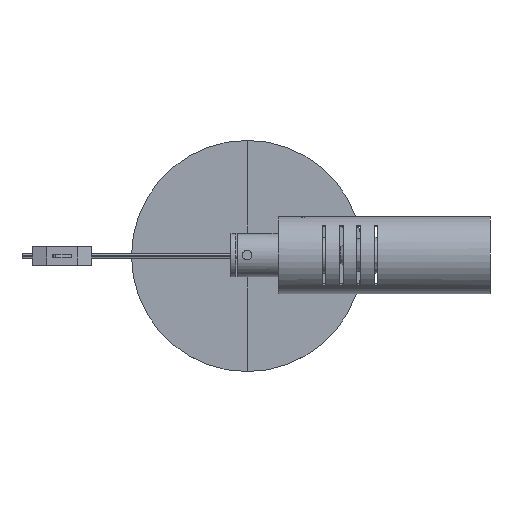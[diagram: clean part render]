
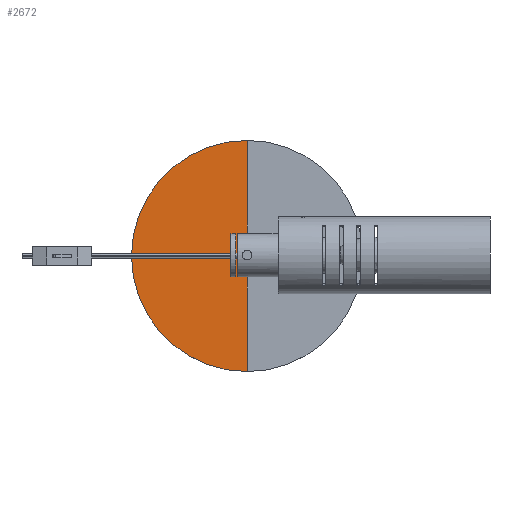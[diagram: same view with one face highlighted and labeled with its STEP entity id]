
A CAD part, top view. The second image highlights one B-rep face of the part: STEP entity #2672.
In plain terms, the highlighted planar face has unit normal (0, 0, 1).
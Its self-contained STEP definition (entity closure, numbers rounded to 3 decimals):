
#95=PLANE('',#2870);
#192=FACE_OUTER_BOUND('',#358,.T.);
#358=EDGE_LOOP('',(#1894,#1895,#1896,#1897,#1898));
#593=LINE('',#4228,#800);
#594=LINE('',#4229,#801);
#800=VECTOR('',#3246,304.8);
#801=VECTOR('',#3247,304.8);
#993=CIRCLE('',#2849,5.);
#995=CIRCLE('',#2852,5.);
#1004=CIRCLE('',#2868,120.01);
#1147=VERTEX_POINT('',#4187);
#1148=VERTEX_POINT('',#4189);
#1149=VERTEX_POINT('',#4195);
#1156=VERTEX_POINT('',#4220);
#1157=VERTEX_POINT('',#4221);
#1414=EDGE_CURVE('',#1148,#1147,#993,.T.);
#1418=EDGE_CURVE('',#1149,#1148,#995,.T.);
#1433=EDGE_CURVE('',#1157,#1156,#1004,.T.);
#1434=EDGE_CURVE('',#1147,#1157,#593,.T.);
#1435=EDGE_CURVE('',#1156,#1149,#594,.T.);
#1894=ORIENTED_EDGE('',*,*,#1433,.T.);
#1895=ORIENTED_EDGE('',*,*,#1435,.T.);
#1896=ORIENTED_EDGE('',*,*,#1418,.T.);
#1897=ORIENTED_EDGE('',*,*,#1414,.T.);
#1898=ORIENTED_EDGE('',*,*,#1434,.T.);
#2672=ADVANCED_FACE('',(#192),#95,.F.);
#2849=AXIS2_PLACEMENT_3D('',#4190,#3196,#3197);
#2852=AXIS2_PLACEMENT_3D('',#4196,#3204,#3205);
#2868=AXIS2_PLACEMENT_3D('',#4226,#3242,#3243);
#2870=AXIS2_PLACEMENT_3D('',#4230,#3248,#3249);
#3196=DIRECTION('center_axis',(0.,0.,-1.));
#3197=DIRECTION('ref_axis',(1.,0.,0.));
#3204=DIRECTION('center_axis',(0.,0.,-1.));
#3205=DIRECTION('ref_axis',(1.,0.,0.));
#3242=DIRECTION('center_axis',(0.,0.,1.));
#3243=DIRECTION('ref_axis',(0.,-1.,0.));
#3246=DIRECTION('',(0.,1.,0.));
#3247=DIRECTION('',(0.,1.,0.));
#3248=DIRECTION('center_axis',(0.,0.,-1.));
#3249=DIRECTION('ref_axis',(0.,-1.,0.));
#4187=CARTESIAN_POINT('',(0.,5.,6.));
#4189=CARTESIAN_POINT('',(-5.,0.,6.));
#4190=CARTESIAN_POINT('Origin',(0.,0.,
6.));
#4195=CARTESIAN_POINT('',(0.,-5.,6.));
#4196=CARTESIAN_POINT('Origin',(0.,0.,
6.));
#4220=CARTESIAN_POINT('',(0.,-120.01,6.));
#4221=CARTESIAN_POINT('',(0.,120.01,6.));
#4226=CARTESIAN_POINT('Origin',(0.,0.,
6.));
#4228=CARTESIAN_POINT('',(0.,5.,6.));
#4229=CARTESIAN_POINT('',(0.,-120.01,6.));
#4230=CARTESIAN_POINT('Origin',(0.,0.,6.));
